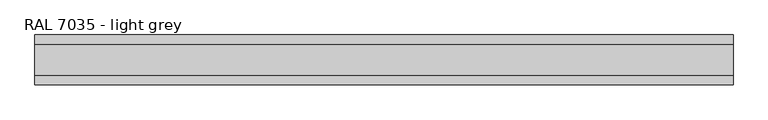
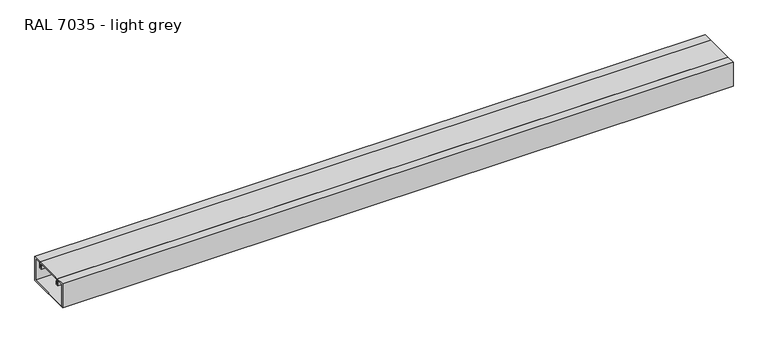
"""IFC4 building model written with IfcOpenShell, lengths in millimetres: proxy geometry, Electrical_Installations_Hager_BRP-Lid-End-Cap-One-Compartment : RAL 7035 - light grey."""

from ifc_helpers import new_model, si_unit, frame, origin, place, context, project, spatial, polyline, outline, extrude, source, transform, mapped, element, save


def ral_7035_light_grey_75ae3775(model_context):
    return source(origin(), model_context, "Body", "SweptSolid", [
        extrude(outline(polyline([(40.0, 18.6492509), (37.5361498, 18.6492509), (37.5361498, 30.0), (-37.5361498, 30.0), (-37.5361498, 18.6492509), (-40.0, 18.6492509), (-40.0, 33.0), (40.0, 33.0), (40.0, 18.6492509)])), frame((0.0, 0.0, 0.0), z_axis=(1.0, 0.0, 0.0), x_axis=(0.0, 1.0, 0.0)), (0.0, 0.0, 1.0), 1817.02529),
        extrude(outline(polyline([(65.0, 33.0), (65.0, -35.0582587), (-65.0, -35.0582587), (-65.0, 33.0), (-40.5, 33.0), (-40.5, 16.0), (-36.578125, 16.0), (-36.578125, 24.0415809), (-35.3, 24.0415809), (-35.3, 14.0), (-42.5, 14.0), (-42.5, 30.0), (-62.0, 30.0), (-62.0, -32.0582587), (62.0, -32.0582587), (62.0, 30.0), (42.5, 30.0), (42.5, 14.0), (35.221875, 14.0), (35.221875, 24.0415809), (36.5, 24.0415809), (36.5, 16.0), (40.5, 16.0), (40.5, 33.0), (65.0, 33.0)])), frame((0.0, 0.0, 0.0), z_axis=(1.0, 0.0, 0.0), x_axis=(0.0, 1.0, 0.0)), (0.0, 0.0, 1.0), 1817.02529),
    ])


if __name__ == "__main__":
    model = new_model("IFC4")
    model_context = context("Model", 3, world=origin())
    ifc_project = project(units=[si_unit("LENGTHUNIT", "METRE", prefix="MILLI")], contexts=[model_context])
    site = spatial("IfcSite", under=ifc_project)
    building = spatial("IfcBuilding", under=site)
    placement = place(None, origin())
    ral_7035_light_grey_shape = ral_7035_light_grey_75ae3775(model_context)
    element("IfcBuildingElementProxy", 1, Name="Electrical_Installations_Hager_BRP-Lid-End-Cap-One-Compartment : RAL 7035 - light grey", ObjectType="Electrical_Installations_Hager_BRP-Lid-End-Cap-One-Compartment : RAL 7035 - light grey", at=placement, inside=building, context=model_context, shape_type="MappedRepresentation", body=[
        mapped(ral_7035_light_grey_shape, transform((0.0, 0.0, 0.0), x_axis=(1.0, 0.0, 0.0), y_axis=(0.0, 1.0, 0.0), z_axis=(0.0, 0.0, 1.0))),
    ])
    save(model, "model.ifc")
